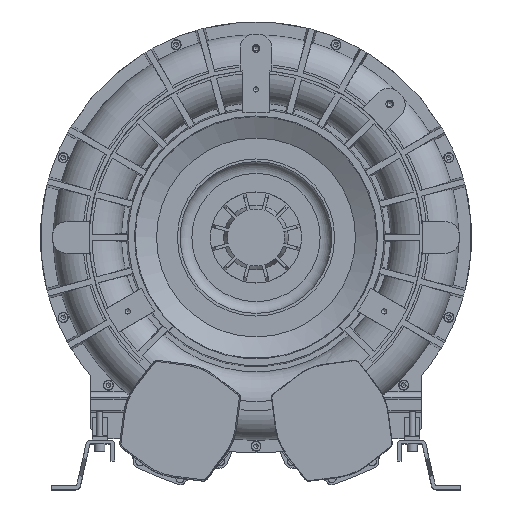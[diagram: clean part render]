
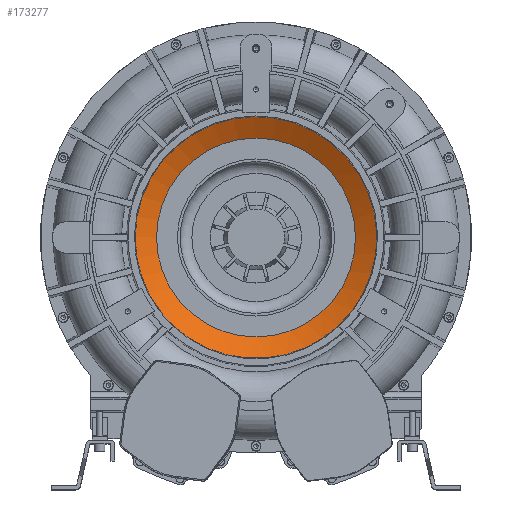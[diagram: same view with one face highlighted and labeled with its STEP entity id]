
A CAD part, top view. The second image highlights one B-rep face of the part: STEP entity #173277.
In plain terms, the highlighted conical face has half-angle 62 degrees and reference radius 131.023 mm.
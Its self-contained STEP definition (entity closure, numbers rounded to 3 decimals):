
#9832 = CARTESIAN_POINT ( 'NONE',  ( 0., 0., 215.5 ) ) ;
#32661 = EDGE_LOOP ( 'NONE', ( #80340 ) ) ;
#37073 = DIRECTION ( 'NONE',  ( -1., 0., 0. ) ) ;
#37420 = CIRCLE ( 'NONE', #212511, 159.217 ) ;
#43924 = CIRCLE ( 'NONE', #83326, 131.023 ) ;
#65598 = CARTESIAN_POINT ( 'NONE',  ( -131.023, 0., 215.5 ) ) ;
#75584 = DIRECTION ( 'NONE',  ( 1., 0., 0. ) ) ;
#80340 = ORIENTED_EDGE ( 'NONE', *, *, #232100, .F. ) ;
#83326 = AXIS2_PLACEMENT_3D ( 'NONE', #104932, #205090, #100863 ) ;
#100863 = DIRECTION ( 'NONE',  ( -1., 0., 0. ) ) ;
#104932 = CARTESIAN_POINT ( 'NONE',  ( 0., 0., 215.5 ) ) ;
#108160 = VERTEX_POINT ( 'NONE', #65598 ) ;
#118416 = EDGE_LOOP ( 'NONE', ( #143746 ) ) ;
#127415 = CARTESIAN_POINT ( 'NONE',  ( -159.217, 0., 230.491 ) ) ;
#143746 = ORIENTED_EDGE ( 'NONE', *, *, #222810, .F. ) ;
#161163 = CONICAL_SURFACE ( 'NONE', #218052, 131.023, 1.082 ) ;
#166031 = CARTESIAN_POINT ( 'NONE',  ( 0., 0., 230.491 ) ) ;
#173277 = ADVANCED_FACE ( 'NONE', ( #203103, #222342 ), #161163, .F. ) ;
#203103 = FACE_OUTER_BOUND ( 'NONE', #32661, .T. ) ;
#205090 = DIRECTION ( 'NONE',  ( 0., 0., 1. ) ) ;
#211075 = VERTEX_POINT ( 'NONE', #127415 ) ;
#212511 = AXIS2_PLACEMENT_3D ( 'NONE', #166031, #230435, #37073 ) ;
#218052 = AXIS2_PLACEMENT_3D ( 'NONE', #9832, #262129, #75584 ) ;
#222342 = FACE_BOUND ( 'NONE', #118416, .T. ) ;
#222810 = EDGE_CURVE ( 'NONE', #108160, #108160, #43924, .T. ) ;
#230435 = DIRECTION ( 'NONE',  ( 0., 0., -1. ) ) ;
#232100 = EDGE_CURVE ( 'NONE', #211075, #211075, #37420, .T. ) ;
#262129 = DIRECTION ( 'NONE',  ( 0., 0., 1. ) ) ;
